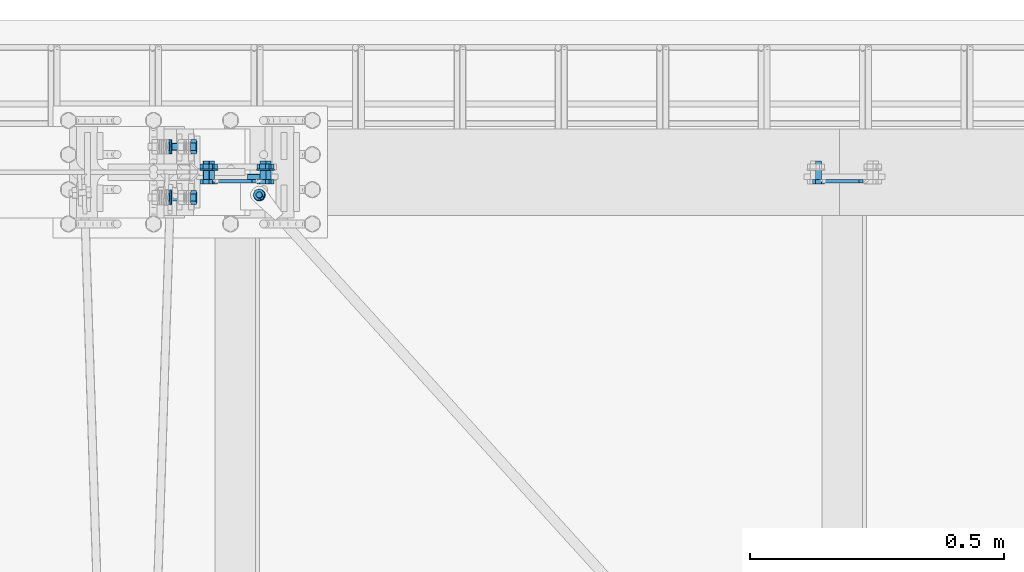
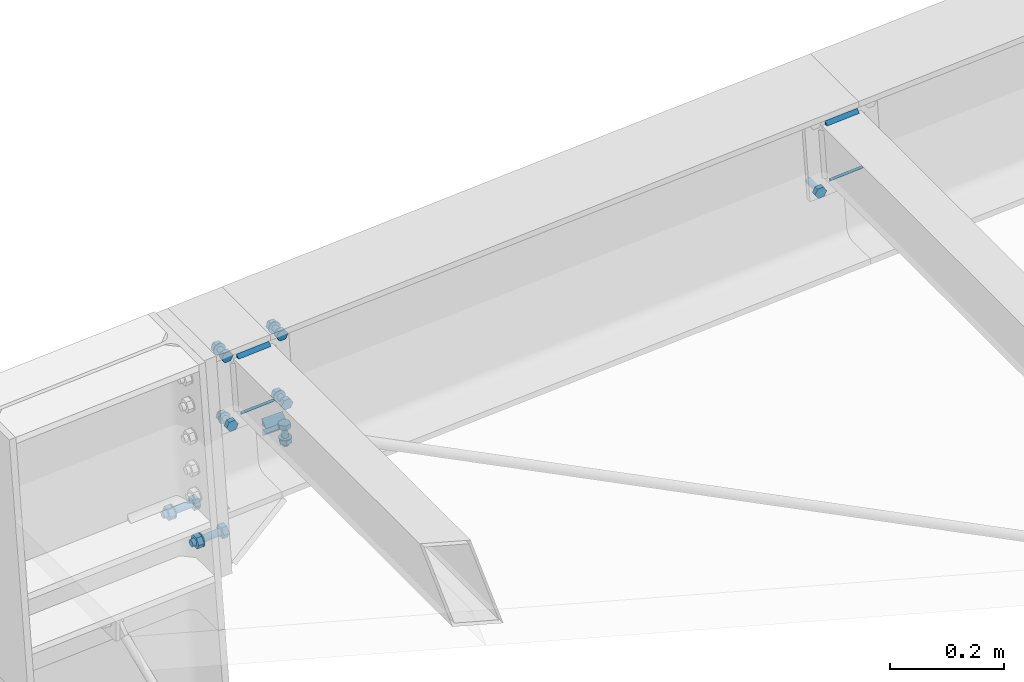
# One storey, part 68 of 72: 30 mechanical fasteners, 10 fasteners.
"""IFC4 building model written with IfcOpenShell, lengths in metres."""

from ifc_helpers import new_model, si_unit, frame, origin_with_axes, place, context, project, spatial, polyline, outline, extrude, type_object, element, save


model = new_model("IFC4")

# Units and contexts
model_context = context("Model", 3, precision=1e-05, world=origin_with_axes())
ifc_project = project(units=[si_unit("LENGTHUNIT", "METRE"), si_unit("AREAUNIT", "SQUARE_METRE"), si_unit("VOLUMEUNIT", "CUBIC_METRE"), si_unit("MASSUNIT", "GRAM", prefix="KILO"), si_unit("TIMEUNIT", "SECOND"), si_unit("PLANEANGLEUNIT", "RADIAN"), si_unit("SOLIDANGLEUNIT", "STERADIAN"), si_unit("THERMODYNAMICTEMPERATUREUNIT", "DEGREE_CELSIUS")], contexts=[model_context])

# Site, building, storey
placement_1 = place(None, origin_with_axes())
site = spatial("IfcSite", under=ifc_project, at=placement_1, Name="Italia", CompositionType="ELEMENT")
building = spatial("IfcBuilding", under=site, at=placement_1, Name="Pensilina", CompositionType="ELEMENT")
storey = spatial("IfcBuildingStorey", under=building, at=placement_1, Name="Storey 0", CompositionType="ELEMENT", Elevation=0.0)

# Mechanical fasteners
mechanical_fastener_type_1 = type_object("IfcMechanicalFastenerType", Name="Collegamento 0105_0205", PredefinedType="BOLT")
placement_2 = place(placement_1, origin_with_axes())
mechanical_fastener_1_placement = place(placement_2, origin_with_axes())
element("IfcMechanicalFastener", 1, at=mechanical_fastener_1_placement, inside=storey, type_object=mechanical_fastener_type_1, Name="Collegamento 0105_0205", NominalDiameter=0.0139999, context=model_context, shape_type="SweptSolid", body=[
    extrude(outline(polyline([(0.0, 0.0, 0.0), (-0.0139999, 0.0, 0.0), (-0.0209999, 0.0121245, 0.0), (-0.0139999, 0.0242486, 0.0), (0.0, 0.0242486, 0.0), (0.00699997, 0.0121245, 0.0), (0.0, 0.0, 0.0)])), frame((0.930596, 21.077, 3.40757), z_axis=(0.997648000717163, 0.0, 0.068545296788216), x_axis=(0.0, 1.0, 0.0)), (0.0, 0.0, 1.0), 0.0112),
])
mechanical_fastener_type_2 = type_object("IfcMechanicalFastenerType", Name="Collegamento 0105_0205", PredefinedType="BOLT")
mechanical_fastener_2_placement = place(placement_2, origin_with_axes())
element("IfcMechanicalFastener", 2, at=mechanical_fastener_2_placement, inside=storey, type_object=mechanical_fastener_type_2, Name="Collegamento 0105_0205", NominalDiameter=0.014, context=model_context, shape_type="SweptSolid", body=[
    extrude(outline(polyline([(0.0, 0.0, 0.0), (-0.000238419, -0.0018115, 0.0), (-0.000938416, -0.00349998, 0.0), (-0.0020504, -0.00494957, 0.0), (-0.00349998, -0.00606203, 0.0), (-0.00518799, -0.00676131, 0.0), (-0.00699997, -0.00699997, 0.0), (-0.00881195, -0.00676131, 0.0), (-0.0105, -0.00606203, 0.0), (-0.0119495, -0.00494957, 0.0), (-0.0130615, -0.00349998, 0.0), (-0.0137615, -0.0018115, 0.0), (-0.0139999, 0.0, 0.0), (-0.0137615, 0.00181174, 0.0), (-0.0130615, 0.00350022, 0.0), (-0.0119495, 0.00494981, 0.0), (-0.0105, 0.00606227, 0.0), (-0.00881195, 0.00676155, 0.0), (-0.00699997, 0.00699997, 0.0), (-0.00518799, 0.00676155, 0.0), (-0.00349998, 0.00606227, 0.0), (-0.0020504, 0.00494981, 0.0), (-0.000938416, 0.00350022, 0.0), (-0.000238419, 0.00181174, 0.0), (0.0, 0.0, 0.0)])), frame((0.870405, 21.077, 3.41559), z_axis=(0.997648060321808, 0.0, 0.068544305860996), x_axis=(0.0, 1.0, 0.0)), (0.0, 0.0, 1.0), 0.0595),
])
mechanical_fastener_type_3 = type_object("IfcMechanicalFastenerType", Name="Collegamento 0105_0205", PredefinedType="BOLT")
mechanical_fastener_3_placement = place(placement_2, origin_with_axes())
element("IfcMechanicalFastener", 3, at=mechanical_fastener_3_placement, inside=storey, type_object=mechanical_fastener_type_3, Name="Collegamento 0105_0205", NominalDiameter=0.0139999, context=model_context, shape_type="SweptSolid", body=[
    extrude(outline(polyline([(0.0, 0.0, 0.0), (-0.0139999, 0.0, 0.0), (-0.0209999, 0.0121243, 0.0), (-0.0139999, 0.0242488, 0.0), (0.0, 0.0242488, 0.0), (0.00699997, 0.0121243, 0.0), (0.0, 0.0, 0.0)])), frame((0.879017, 21.077, 3.40403), z_axis=(0.997648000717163, 0.0, 0.068545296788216), x_axis=(0.0, 1.0, 0.0)), (0.0, 0.0, 1.0), 0.0112),
])
mechanical_fastener_type_4 = type_object("IfcMechanicalFastenerType", Name="Collegamento 0105_0205", PredefinedType="BOLT")
mechanical_fastener_4_placement = place(placement_2, origin_with_axes())
element("IfcMechanicalFastener", 4, at=mechanical_fastener_4_placement, inside=storey, type_object=mechanical_fastener_type_4, Name="Collegamento 0105_0205", NominalDiameter=0.028, context=model_context, shape_type="SweptSolid", body=[
    extrude(outline(polyline([(0.0, 0.0, 0.0), (-0.000476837, -0.00362349, 0.0), (-0.00187492, -0.00699997, 0.0), (-0.0041008, -0.00989962, 0.0), (-0.00699997, -0.0121245, 0.0), (-0.010376, -0.0135231, 0.0), (-0.0139999, -0.0139999, 0.0), (-0.0176239, -0.0135231, 0.0), (-0.0209999, -0.0121245, 0.0), (-0.0238991, -0.00989962, 0.0), (-0.026125, -0.00699997, 0.0), (-0.027523, -0.00362349, 0.0), (-0.0279999, 0.0, 0.0), (-0.027523, 0.00362349, 0.0), (-0.026125, 0.00699997, 0.0), (-0.0238991, 0.00989962, 0.0), (-0.0209999, 0.0121243, 0.0), (-0.0176239, 0.0135229, 0.0), (-0.0139999, 0.0139999, 0.0), (-0.010376, 0.0135229, 0.0), (-0.00699997, 0.0121243, 0.0), (-0.0041008, 0.00989962, 0.0), (-0.00187492, 0.00699997, 0.0), (-0.000476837, 0.00362349, 0.0), (0.0, 0.0, 0.0)])), frame((0.88936, 21.084, 3.41689), z_axis=(0.997648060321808, 0.0, 0.06854435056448), x_axis=(0.0, 1.0, 0.0)), (0.0, 0.0, 1.0), 0.00200003),
])
mechanical_fastener_type_5 = type_object("IfcMechanicalFastenerType", Name="Collegamento 0105_0205", PredefinedType="BOLT")
mechanical_fastener_5_placement = place(placement_2, origin_with_axes())
element("IfcMechanicalFastener", 5, at=mechanical_fastener_5_placement, inside=storey, type_object=mechanical_fastener_type_5, Name="Collegamento 0105_0205", NominalDiameter=0.0139999, context=model_context, shape_type="SweptSolid", body=[
    extrude(outline(polyline([(0.0, 0.0, 0.0), (-0.0139999, 0.0, 0.0), (-0.0209999, 0.0121245, 0.0), (-0.0139999, 0.0242486, 0.0), (0.0, 0.0242486, 0.0), (0.00699997, 0.0121245, 0.0), (0.0, 0.0, 0.0)])), frame((0.930596, 21.177, 3.40757), z_axis=(0.997648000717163, 0.0, 0.068545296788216), x_axis=(0.0, 1.0, 0.0)), (0.0, 0.0, 1.0), 0.0112),
])
mechanical_fastener_type_6 = type_object("IfcMechanicalFastenerType", Name="Collegamento 0105_0205", PredefinedType="BOLT")
mechanical_fastener_6_placement = place(placement_2, origin_with_axes())
element("IfcMechanicalFastener", 6, at=mechanical_fastener_6_placement, inside=storey, type_object=mechanical_fastener_type_6, Name="Collegamento 0105_0205", NominalDiameter=0.014, context=model_context, shape_type="SweptSolid", body=[
    extrude(outline(polyline([(0.0, 0.0, 0.0), (-0.000238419, -0.0018115, 0.0), (-0.000938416, -0.00349998, 0.0), (-0.0020504, -0.00494957, 0.0), (-0.00349998, -0.00606203, 0.0), (-0.00518799, -0.00676131, 0.0), (-0.00699997, -0.00699997, 0.0), (-0.00881195, -0.00676131, 0.0), (-0.0105, -0.00606203, 0.0), (-0.0119495, -0.00494957, 0.0), (-0.0130615, -0.00349998, 0.0), (-0.0137615, -0.0018115, 0.0), (-0.0139999, 0.0, 0.0), (-0.0137615, 0.00181174, 0.0), (-0.0130615, 0.00350022, 0.0), (-0.0119495, 0.00494981, 0.0), (-0.0105, 0.00606227, 0.0), (-0.00881195, 0.00676155, 0.0), (-0.00699997, 0.00699997, 0.0), (-0.00518799, 0.00676155, 0.0), (-0.00349998, 0.00606227, 0.0), (-0.0020504, 0.00494981, 0.0), (-0.000938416, 0.00350022, 0.0), (-0.000238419, 0.00181174, 0.0), (0.0, 0.0, 0.0)])), frame((0.870405, 21.177, 3.41559), z_axis=(0.997648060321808, 0.0, 0.068544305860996), x_axis=(0.0, 1.0, 0.0)), (0.0, 0.0, 1.0), 0.0595),
])
mechanical_fastener_type_7 = type_object("IfcMechanicalFastenerType", Name="Collegamento 0105_0205", PredefinedType="BOLT")
mechanical_fastener_7_placement = place(placement_2, origin_with_axes())
element("IfcMechanicalFastener", 7, at=mechanical_fastener_7_placement, inside=storey, type_object=mechanical_fastener_type_7, Name="Collegamento 0105_0205", NominalDiameter=0.0139999, context=model_context, shape_type="SweptSolid", body=[
    extrude(outline(polyline([(0.0, 0.0, 0.0), (-0.0139999, 0.0, 0.0), (-0.0209999, 0.0121243, 0.0), (-0.0139999, 0.0242488, 0.0), (0.0, 0.0242488, 0.0), (0.00699997, 0.0121243, 0.0), (0.0, 0.0, 0.0)])), frame((0.879017, 21.177, 3.40403), z_axis=(0.997648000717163, 0.0, 0.068545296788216), x_axis=(0.0, 1.0, 0.0)), (0.0, 0.0, 1.0), 0.0112),
])
mechanical_fastener_type_8 = type_object("IfcMechanicalFastenerType", Name="Collegamento 0105_0205", PredefinedType="BOLT")
mechanical_fastener_8_placement = place(placement_2, origin_with_axes())
element("IfcMechanicalFastener", 8, at=mechanical_fastener_8_placement, inside=storey, type_object=mechanical_fastener_type_8, Name="Collegamento 0105_0205", NominalDiameter=0.028, context=model_context, shape_type="SweptSolid", body=[
    extrude(outline(polyline([(0.0, 0.0, 0.0), (-0.000476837, -0.00362349, 0.0), (-0.00187492, -0.00699997, 0.0), (-0.0041008, -0.00989962, 0.0), (-0.00699997, -0.0121245, 0.0), (-0.010376, -0.0135231, 0.0), (-0.0139999, -0.0139999, 0.0), (-0.0176239, -0.0135231, 0.0), (-0.0209999, -0.0121245, 0.0), (-0.0238991, -0.00989962, 0.0), (-0.026125, -0.00699997, 0.0), (-0.027523, -0.00362349, 0.0), (-0.0279999, 0.0, 0.0), (-0.027523, 0.00362349, 0.0), (-0.026125, 0.00699997, 0.0), (-0.0238991, 0.00989962, 0.0), (-0.0209999, 0.0121243, 0.0), (-0.0176239, 0.0135229, 0.0), (-0.0139999, 0.0139999, 0.0), (-0.010376, 0.0135229, 0.0), (-0.00699997, 0.0121243, 0.0), (-0.0041008, 0.00989962, 0.0), (-0.00187492, 0.00699997, 0.0), (-0.000476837, 0.00362349, 0.0), (0.0, 0.0, 0.0)])), frame((0.88936, 21.184, 3.41689), z_axis=(0.997648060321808, 0.0, 0.06854435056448), x_axis=(0.0, 1.0, 0.0)), (0.0, 0.0, 1.0), 0.00200003),
])

# Fasteners
fastener_type_1 = type_object("IfcFastenerType", Name="Collegamento 0205_0204", PredefinedType="WELD")
fastener_1_placement = place(placement_2, origin_with_axes())
element("IfcFastener", 9, at=fastener_1_placement, inside=storey, type_object=fastener_type_1, Name="Collegamento 0205_0204", context=model_context, shape_type="SweptSolid", body=[
    extrude(outline(polyline([(0.0, 0.0, 0.0), (0.00717354, -0.00695801, 0.0), (0.0, -0.00695801, 0.0), (0.0, 0.0, 0.0)])), frame((1.04952, 21.106, 3.76556), z_axis=(-0.997731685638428, 0.0, -0.067316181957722), x_axis=(0.0, -1.0, 0.0)), (0.0, 0.0, 1.0), 0.0661001),
])
fastener_type_2 = type_object("IfcFastenerType", Name="Collegamento 0205_0204", PredefinedType="WELD")
fastener_2_placement = place(placement_2, origin_with_axes())
element("IfcFastener", 10, at=fastener_2_placement, inside=storey, type_object=fastener_type_2, Name="Collegamento 0205_0204", context=model_context, shape_type="SweptSolid", body=[
    extrude(outline(polyline([(0.0, 0.0, 0.0), (-0.00717354, 0.00695801, 0.0), (0.0, 0.00695801, 0.0), (0.0, 0.0, 0.0)])), frame((0.992578, 21.106, 3.6276), z_axis=(0.997731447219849, 0.0, 0.067319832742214), x_axis=(0.0, 1.0, 0.0)), (0.0, 0.0, 1.0), 0.0661),
])
fastener_type_3 = type_object("IfcFastenerType", Name="Collegamento 0205_0204", PredefinedType="WELD")
fastener_3_placement = place(placement_2, origin_with_axes())
element("IfcFastener", 11, at=fastener_3_placement, inside=storey, type_object=fastener_type_3, Name="Collegamento 0205_0204", context=model_context, shape_type="SweptSolid", body=[
    extrude(outline(polyline([(0.0, 0.0, 0.0), (0.00717354, -0.00695801, 0.0), (0.0, -0.00695801, 0.0), (0.0, 0.0, 0.0)])), frame((1.04952, 21.106, 3.76556), z_axis=(-0.997731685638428, 0.0, -0.067316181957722), x_axis=(0.0, -1.0, 0.0)), (0.0, 0.0, 1.0), 0.0661001),
])
fastener_type_4 = type_object("IfcFastenerType", Name="Collegamento 0205_0204", PredefinedType="WELD")
fastener_4_placement = place(placement_2, origin_with_axes())
element("IfcFastener", 12, at=fastener_4_placement, inside=storey, type_object=fastener_type_4, Name="Collegamento 0205_0204", context=model_context, shape_type="SweptSolid", body=[
    extrude(outline(polyline([(0.0, 0.0, 0.0), (-0.00717354, 0.00695801, 0.0), (0.0, 0.00695801, 0.0), (0.0, 0.0, 0.0)])), frame((0.992578, 21.106, 3.6276), z_axis=(0.997731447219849, 0.0, 0.067319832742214), x_axis=(0.0, 1.0, 0.0)), (0.0, 0.0, 1.0), 0.0661),
])

# Mechanical fasteners
mechanical_fastener_type_9 = type_object("IfcMechanicalFastenerType", Name="Collegamento 0205_0204", PredefinedType="BOLT")
mechanical_fastener_9_placement = place(placement_2, origin_with_axes())
element("IfcMechanicalFastener", 13, at=mechanical_fastener_9_placement, inside=storey, type_object=mechanical_fastener_type_9, Name="Collegamento 0205_0204", NominalDiameter=0.0119999, context=model_context, shape_type="SweptSolid", body=[
    extrude(outline(polyline([(0.0, 0.0, 0.0), (-0.0119728, -0.000807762, 0.0), (-0.0186588, 0.00915694, 0.0), (-0.0133719, 0.0199296, 0.0), (-0.00139916, 0.0207374, 0.0), (0.00528681, 0.0107727, 0.0), (0.0, 0.0, 0.0)])), frame((0.976979, 21.106, 3.60702), z_axis=(0.0, -1.0, 0.0), x_axis=(1.0, 0.0, 0.0)), (0.0, 0.0, 1.0), 0.00959969),
])
mechanical_fastener_type_10 = type_object("IfcMechanicalFastenerType", Name="Collegamento 0205_0204", PredefinedType="BOLT")
mechanical_fastener_10_placement = place(placement_2, origin_with_axes())
element("IfcMechanicalFastener", 14, at=mechanical_fastener_10_placement, inside=storey, type_object=mechanical_fastener_type_10, Name="Collegamento 0205_0204", NominalDiameter=0.012, context=model_context, shape_type="SweptSolid", body=[
    extrude(outline(polyline([(0.0, 0.0, 0.0), (-0.000204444, -0.00155282, 0.0), (-0.000803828, -0.00300002, 0.0), (-0.00175732, -0.00424266, 0.0), (-0.00299996, -0.00519609, 0.0), (-0.00444704, -0.00579548, 0.0), (-0.00599998, -0.00600004, 0.0), (-0.00755292, -0.00579548, 0.0), (-0.009, -0.00519609, 0.0), (-0.0102426, -0.00424266, 0.0), (-0.0111961, -0.00300002, 0.0), (-0.0117955, -0.00155282, 0.0), (-0.012, 0.0, 0.0), (-0.0117955, 0.00155282, 0.0), (-0.0111961, 0.00300002, 0.0), (-0.0102426, 0.00424266, 0.0), (-0.009, 0.00519609, 0.0), (-0.00755292, 0.00579548, 0.0), (-0.00599998, 0.00600004, 0.0), (-0.00444704, 0.00579548, 0.0), (-0.00299996, 0.00519609, 0.0), (-0.00175732, 0.00424266, 0.0), (-0.000803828, 0.00300002, 0.0), (-0.000204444, 0.00155282, 0.0), (0.0, 0.0, 0.0)])), frame((0.976293, 21.142, 3.61698), z_axis=(0.0, -1.0, 0.0), x_axis=(1.0, 0.0, 0.0)), (0.0, 0.0, 1.0), 0.0359993),
])
mechanical_fastener_type_11 = type_object("IfcMechanicalFastenerType", Name="Collegamento 0205_0204", PredefinedType="BOLT")
mechanical_fastener_11_placement = place(placement_2, origin_with_axes())
element("IfcMechanicalFastener", 15, at=mechanical_fastener_11_placement, inside=storey, type_object=mechanical_fastener_type_11, Name="Collegamento 0205_0204", NominalDiameter=0.0119999, context=model_context, shape_type="SweptSolid", body=[
    extrude(outline(polyline([(0.0, 0.0, 0.0), (-0.0119728, -0.000807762, 0.0), (-0.0186588, 0.00915694, 0.0), (-0.0133719, 0.0199296, 0.0), (-0.00139916, 0.0207374, 0.0), (0.00528681, 0.0107727, 0.0), (0.0, 0.0, 0.0)])), frame((0.976979, 21.1356, 3.60702), z_axis=(0.0, -1.0, 0.0), x_axis=(1.0, 0.0, 0.0)), (0.0, 0.0, 1.0), 0.00959969),
])
mechanical_fastener_type_12 = type_object("IfcMechanicalFastenerType", Name="Collegamento 0205_0204", PredefinedType="BOLT")
mechanical_fastener_12_placement = place(placement_2, origin_with_axes())
element("IfcMechanicalFastener", 16, at=mechanical_fastener_12_placement, inside=storey, type_object=mechanical_fastener_type_12, Name="Collegamento 0205_0204", NominalDiameter=0.024, context=model_context, shape_type="SweptSolid", body=[
    extrude(outline(polyline([(0.0, 0.0, 0.0), (-0.000408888, -0.00310588, 0.0), (-0.00160772, -0.00600004, 0.0), (-0.00351477, -0.00848532, 0.0), (-0.00600004, -0.0103922, 0.0), (-0.00889421, -0.0115912, 0.0), (-0.012, -0.0120001, 0.0), (-0.0151058, -0.0115912, 0.0), (-0.018, -0.0103922, 0.0), (-0.0204853, -0.00848532, 0.0), (-0.0223923, -0.00600004, 0.0), (-0.0235912, -0.00310588, 0.0), (-0.024, 0.0, 0.0), (-0.0235912, 0.00310588, 0.0), (-0.0223923, 0.00600004, 0.0), (-0.0204853, 0.00848532, 0.0), (-0.018, 0.0103922, 0.0), (-0.0151058, 0.0115912, 0.0), (-0.012, 0.0120001, 0.0), (-0.00889421, 0.0115912, 0.0), (-0.00600004, 0.0103922, 0.0), (-0.00351477, 0.00848532, 0.0), (-0.00160772, 0.00600004, 0.0), (-0.000408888, 0.00310588, 0.0), (0.0, 0.0, 0.0)])), frame((0.982293, 21.126, 3.61698), z_axis=(0.0, -1.0, 0.0), x_axis=(1.0, 0.0, 0.0)), (0.0, 0.0, 1.0), 0.00200081),
])
mechanical_fastener_type_13 = type_object("IfcMechanicalFastenerType", Name="Collegamento 0205_0204", PredefinedType="BOLT")
mechanical_fastener_13_placement = place(placement_2, origin_with_axes())
element("IfcMechanicalFastener", 17, at=mechanical_fastener_13_placement, inside=storey, type_object=mechanical_fastener_type_13, Name="Collegamento 0205_0204", NominalDiameter=0.0119999, context=model_context, shape_type="SweptSolid", body=[
    extrude(outline(polyline([(0.0, 0.0, 0.0), (-0.0119728, -0.000807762, 0.0), (-0.0186589, 0.00915694, 0.0), (-0.0133721, 0.0199296, 0.0), (-0.00139928, 0.0207374, 0.0), (0.00528669, 0.0107727, 0.0), (0.0, 0.0, 0.0)])), frame((1.08872, 21.106, 3.61456), z_axis=(0.0, -1.0, 0.0), x_axis=(1.0, 0.0, 0.0)), (0.0, 0.0, 1.0), 0.00959969),
])
mechanical_fastener_type_14 = type_object("IfcMechanicalFastenerType", Name="Collegamento 0205_0204", PredefinedType="BOLT")
mechanical_fastener_14_placement = place(placement_2, origin_with_axes())
element("IfcMechanicalFastener", 18, at=mechanical_fastener_14_placement, inside=storey, type_object=mechanical_fastener_type_14, Name="Collegamento 0205_0204", NominalDiameter=0.012, context=model_context, shape_type="SweptSolid", body=[
    extrude(outline(polyline([(0.0, 0.0, 0.0), (-0.000204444, -0.00155282, 0.0), (-0.000803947, -0.00300002, 0.0), (-0.00175738, -0.00424266, 0.0), (-0.00300002, -0.00519609, 0.0), (-0.0044471, -0.00579548, 0.0), (-0.00600004, -0.00600004, 0.0), (-0.00755298, -0.00579548, 0.0), (-0.00900006, -0.00519609, 0.0), (-0.0102427, -0.00424266, 0.0), (-0.0111961, -0.00300002, 0.0), (-0.0117956, -0.00155282, 0.0), (-0.0120001, 0.0, 0.0), (-0.0117956, 0.00155282, 0.0), (-0.0111961, 0.00300002, 0.0), (-0.0102427, 0.00424266, 0.0), (-0.00900006, 0.00519609, 0.0), (-0.00755298, 0.00579548, 0.0), (-0.00600004, 0.00600004, 0.0), (-0.0044471, 0.00579548, 0.0), (-0.00300002, 0.00519609, 0.0), (-0.00175738, 0.00424266, 0.0), (-0.000803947, 0.00300002, 0.0), (-0.000204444, 0.00155282, 0.0), (0.0, 0.0, 0.0)])), frame((1.08804, 21.142, 3.62452), z_axis=(0.0, -1.0, 0.0), x_axis=(1.0, 0.0, 0.0)), (0.0, 0.0, 1.0), 0.0359993),
])
mechanical_fastener_type_15 = type_object("IfcMechanicalFastenerType", Name="Collegamento 0205_0204", PredefinedType="BOLT")
mechanical_fastener_15_placement = place(placement_2, origin_with_axes())
element("IfcMechanicalFastener", 19, at=mechanical_fastener_15_placement, inside=storey, type_object=mechanical_fastener_type_15, Name="Collegamento 0205_0204", NominalDiameter=0.0119999, context=model_context, shape_type="SweptSolid", body=[
    extrude(outline(polyline([(0.0, 0.0, 0.0), (-0.0119728, -0.000807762, 0.0), (-0.0186589, 0.00915694, 0.0), (-0.0133721, 0.0199296, 0.0), (-0.00139928, 0.0207374, 0.0), (0.00528669, 0.0107727, 0.0), (0.0, 0.0, 0.0)])), frame((1.08872, 21.1356, 3.61456), z_axis=(0.0, -1.0, 0.0), x_axis=(1.0, 0.0, 0.0)), (0.0, 0.0, 1.0), 0.00959969),
])
mechanical_fastener_type_16 = type_object("IfcMechanicalFastenerType", Name="Collegamento 0205_0204", PredefinedType="BOLT")
mechanical_fastener_16_placement = place(placement_2, origin_with_axes())
element("IfcMechanicalFastener", 20, at=mechanical_fastener_16_placement, inside=storey, type_object=mechanical_fastener_type_16, Name="Collegamento 0205_0204", NominalDiameter=0.024, context=model_context, shape_type="SweptSolid", body=[
    extrude(outline(polyline([(0.0, 0.0, 0.0), (-0.000408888, -0.00310588, 0.0), (-0.00160766, -0.00600004, 0.0), (-0.00351465, -0.00848532, 0.0), (-0.00599992, -0.0103922, 0.0), (-0.00889409, -0.0115912, 0.0), (-0.012, -0.0120001, 0.0), (-0.0151058, -0.0115912, 0.0), (-0.018, -0.0103922, 0.0), (-0.0204853, -0.00848532, 0.0), (-0.0223923, -0.00600004, 0.0), (-0.023591, -0.00310588, 0.0), (-0.0239999, 0.0, 0.0), (-0.023591, 0.00310588, 0.0), (-0.0223923, 0.00600004, 0.0), (-0.0204853, 0.00848532, 0.0), (-0.018, 0.0103922, 0.0), (-0.0151058, 0.0115912, 0.0), (-0.012, 0.0120001, 0.0), (-0.00889409, 0.0115912, 0.0), (-0.00599992, 0.0103922, 0.0), (-0.00351465, 0.00848532, 0.0), (-0.00160766, 0.00600004, 0.0), (-0.000408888, 0.00310588, 0.0), (0.0, 0.0, 0.0)])), frame((1.09404, 21.126, 3.62452), z_axis=(0.0, -1.0, 0.0), x_axis=(1.0, 0.0, 0.0)), (0.0, 0.0, 1.0), 0.00200081),
])
mechanical_fastener_type_17 = type_object("IfcMechanicalFastenerType", Name="Collegamento 0205_0204", PredefinedType="BOLT")
mechanical_fastener_17_placement = place(placement_2, origin_with_axes())
element("IfcMechanicalFastener", 21, at=mechanical_fastener_17_placement, inside=storey, type_object=mechanical_fastener_type_17, Name="Collegamento 0205_0204", NominalDiameter=0.0119999, context=model_context, shape_type="SweptSolid", body=[
    extrude(outline(polyline([(0.0, 0.0, 0.0), (-0.0119728, -0.000807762, 0.0), (-0.0186588, 0.00915694, 0.0), (-0.0133719, 0.0199296, 0.0), (-0.00139916, 0.0207374, 0.0), (0.00528681, 0.0107727, 0.0), (0.0, 0.0, 0.0)])), frame((0.966746, 21.106, 3.75867), z_axis=(0.0, -1.0, 0.0), x_axis=(1.0, 0.0, 0.0)), (0.0, 0.0, 1.0), 0.00959969),
])
mechanical_fastener_type_18 = type_object("IfcMechanicalFastenerType", Name="Collegamento 0205_0204", PredefinedType="BOLT")
mechanical_fastener_18_placement = place(placement_2, origin_with_axes())
element("IfcMechanicalFastener", 22, at=mechanical_fastener_18_placement, inside=storey, type_object=mechanical_fastener_type_18, Name="Collegamento 0205_0204", NominalDiameter=0.012, context=model_context, shape_type="SweptSolid", body=[
    extrude(outline(polyline([(0.0, 0.0, 0.0), (-0.000204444, -0.00155282, 0.0), (-0.000803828, -0.00300002, 0.0), (-0.00175732, -0.00424266, 0.0), (-0.00299996, -0.00519609, 0.0), (-0.00444704, -0.00579548, 0.0), (-0.00599998, -0.00600004, 0.0), (-0.00755292, -0.00579548, 0.0), (-0.009, -0.00519609, 0.0), (-0.0102426, -0.00424266, 0.0), (-0.0111961, -0.00300002, 0.0), (-0.0117955, -0.00155282, 0.0), (-0.012, 0.0, 0.0), (-0.0117955, 0.00155282, 0.0), (-0.0111961, 0.00300002, 0.0), (-0.0102426, 0.00424266, 0.0), (-0.009, 0.00519609, 0.0), (-0.00755292, 0.00579548, 0.0), (-0.00599998, 0.00600004, 0.0), (-0.00444704, 0.00579548, 0.0), (-0.00299996, 0.00519609, 0.0), (-0.00175732, 0.00424266, 0.0), (-0.000803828, 0.00300002, 0.0), (-0.000204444, 0.00155282, 0.0), (0.0, 0.0, 0.0)])), frame((0.96606, 21.142, 3.76864), z_axis=(0.0, -1.0, 0.0), x_axis=(1.0, 0.0, 0.0)), (0.0, 0.0, 1.0), 0.0359993),
])
mechanical_fastener_type_19 = type_object("IfcMechanicalFastenerType", Name="Collegamento 0205_0204", PredefinedType="BOLT")
mechanical_fastener_19_placement = place(placement_2, origin_with_axes())
element("IfcMechanicalFastener", 23, at=mechanical_fastener_19_placement, inside=storey, type_object=mechanical_fastener_type_19, Name="Collegamento 0205_0204", NominalDiameter=0.0119999, context=model_context, shape_type="SweptSolid", body=[
    extrude(outline(polyline([(0.0, 0.0, 0.0), (-0.0119728, -0.000807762, 0.0), (-0.0186588, 0.00915694, 0.0), (-0.0133719, 0.0199296, 0.0), (-0.00139916, 0.0207374, 0.0), (0.00528681, 0.0107727, 0.0), (0.0, 0.0, 0.0)])), frame((0.966746, 21.1356, 3.75867), z_axis=(0.0, -1.0, 0.0), x_axis=(1.0, 0.0, 0.0)), (0.0, 0.0, 1.0), 0.00959969),
])
mechanical_fastener_type_20 = type_object("IfcMechanicalFastenerType", Name="Collegamento 0205_0204", PredefinedType="BOLT")
mechanical_fastener_20_placement = place(placement_2, origin_with_axes())
element("IfcMechanicalFastener", 24, at=mechanical_fastener_20_placement, inside=storey, type_object=mechanical_fastener_type_20, Name="Collegamento 0205_0204", NominalDiameter=0.024, context=model_context, shape_type="SweptSolid", body=[
    extrude(outline(polyline([(0.0, 0.0, 0.0), (-0.000408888, -0.00310588, 0.0), (-0.00160772, -0.00600004, 0.0), (-0.00351477, -0.00848532, 0.0), (-0.00600004, -0.0103922, 0.0), (-0.00889421, -0.0115912, 0.0), (-0.012, -0.0120001, 0.0), (-0.0151058, -0.0115912, 0.0), (-0.018, -0.0103922, 0.0), (-0.0204853, -0.00848532, 0.0), (-0.0223923, -0.00600004, 0.0), (-0.0235912, -0.00310588, 0.0), (-0.024, 0.0, 0.0), (-0.0235912, 0.00310588, 0.0), (-0.0223923, 0.00600004, 0.0), (-0.0204853, 0.00848532, 0.0), (-0.018, 0.0103922, 0.0), (-0.0151058, 0.0115912, 0.0), (-0.012, 0.0120001, 0.0), (-0.00889421, 0.0115912, 0.0), (-0.00600004, 0.0103922, 0.0), (-0.00351477, 0.00848532, 0.0), (-0.00160772, 0.00600004, 0.0), (-0.000408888, 0.00310588, 0.0), (0.0, 0.0, 0.0)])), frame((0.97206, 21.126, 3.76864), z_axis=(0.0, -1.0, 0.0), x_axis=(1.0, 0.0, 0.0)), (0.0, 0.0, 1.0), 0.00200081),
])
mechanical_fastener_type_21 = type_object("IfcMechanicalFastenerType", Name="Collegamento 0205_0204", PredefinedType="BOLT")
mechanical_fastener_21_placement = place(placement_2, origin_with_axes())
element("IfcMechanicalFastener", 25, at=mechanical_fastener_21_placement, inside=storey, type_object=mechanical_fastener_type_21, Name="Collegamento 0205_0204", NominalDiameter=0.0119999, context=model_context, shape_type="SweptSolid", body=[
    extrude(outline(polyline([(0.0, 0.0, 0.0), (-0.0119728, -0.000807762, 0.0), (-0.0186589, 0.00915694, 0.0), (-0.0133721, 0.0199296, 0.0), (-0.00139928, 0.0207374, 0.0), (0.00528669, 0.0107727, 0.0), (0.0, 0.0, 0.0)])), frame((1.07849, 21.106, 3.76621), z_axis=(0.0, -1.0, 0.0), x_axis=(1.0, 0.0, 0.0)), (0.0, 0.0, 1.0), 0.00959969),
])
mechanical_fastener_type_22 = type_object("IfcMechanicalFastenerType", Name="Collegamento 0205_0204", PredefinedType="BOLT")
mechanical_fastener_22_placement = place(placement_2, origin_with_axes())
element("IfcMechanicalFastener", 26, at=mechanical_fastener_22_placement, inside=storey, type_object=mechanical_fastener_type_22, Name="Collegamento 0205_0204", NominalDiameter=0.012, context=model_context, shape_type="SweptSolid", body=[
    extrude(outline(polyline([(0.0, 0.0, 0.0), (-0.000204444, -0.00155282, 0.0), (-0.000803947, -0.00300002, 0.0), (-0.00175738, -0.00424266, 0.0), (-0.00300002, -0.00519609, 0.0), (-0.0044471, -0.00579548, 0.0), (-0.00600004, -0.00600004, 0.0), (-0.00755298, -0.00579548, 0.0), (-0.00900006, -0.00519609, 0.0), (-0.0102427, -0.00424266, 0.0), (-0.0111961, -0.00300002, 0.0), (-0.0117956, -0.00155282, 0.0), (-0.0120001, 0.0, 0.0), (-0.0117956, 0.00155282, 0.0), (-0.0111961, 0.00300002, 0.0), (-0.0102427, 0.00424266, 0.0), (-0.00900006, 0.00519609, 0.0), (-0.00755298, 0.00579548, 0.0), (-0.00600004, 0.00600004, 0.0), (-0.0044471, 0.00579548, 0.0), (-0.00300002, 0.00519609, 0.0), (-0.00175738, 0.00424266, 0.0), (-0.000803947, 0.00300002, 0.0), (-0.000204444, 0.00155282, 0.0), (0.0, 0.0, 0.0)])), frame((1.07781, 21.142, 3.77618), z_axis=(0.0, -1.0, 0.0), x_axis=(1.0, 0.0, 0.0)), (0.0, 0.0, 1.0), 0.0359993),
])
mechanical_fastener_type_23 = type_object("IfcMechanicalFastenerType", Name="Collegamento 0205_0204", PredefinedType="BOLT")
mechanical_fastener_23_placement = place(placement_2, origin_with_axes())
element("IfcMechanicalFastener", 27, at=mechanical_fastener_23_placement, inside=storey, type_object=mechanical_fastener_type_23, Name="Collegamento 0205_0204", NominalDiameter=0.0119999, context=model_context, shape_type="SweptSolid", body=[
    extrude(outline(polyline([(0.0, 0.0, 0.0), (-0.0119728, -0.000807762, 0.0), (-0.0186589, 0.00915694, 0.0), (-0.0133721, 0.0199296, 0.0), (-0.00139928, 0.0207374, 0.0), (0.00528669, 0.0107727, 0.0), (0.0, 0.0, 0.0)])), frame((1.07849, 21.1356, 3.76621), z_axis=(0.0, -1.0, 0.0), x_axis=(1.0, 0.0, 0.0)), (0.0, 0.0, 1.0), 0.00959969),
])
mechanical_fastener_type_24 = type_object("IfcMechanicalFastenerType", Name="Collegamento 0205_0204", PredefinedType="BOLT")
mechanical_fastener_24_placement = place(placement_2, origin_with_axes())
element("IfcMechanicalFastener", 28, at=mechanical_fastener_24_placement, inside=storey, type_object=mechanical_fastener_type_24, Name="Collegamento 0205_0204", NominalDiameter=0.024, context=model_context, shape_type="SweptSolid", body=[
    extrude(outline(polyline([(0.0, 0.0, 0.0), (-0.000408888, -0.00310588, 0.0), (-0.00160766, -0.00600004, 0.0), (-0.00351465, -0.00848532, 0.0), (-0.00599992, -0.0103922, 0.0), (-0.00889409, -0.0115912, 0.0), (-0.012, -0.0120001, 0.0), (-0.0151058, -0.0115912, 0.0), (-0.018, -0.0103922, 0.0), (-0.0204853, -0.00848532, 0.0), (-0.0223923, -0.00600004, 0.0), (-0.023591, -0.00310588, 0.0), (-0.0239999, 0.0, 0.0), (-0.023591, 0.00310588, 0.0), (-0.0223923, 0.00600004, 0.0), (-0.0204853, 0.00848532, 0.0), (-0.018, 0.0103922, 0.0), (-0.0151058, 0.0115912, 0.0), (-0.012, 0.0120001, 0.0), (-0.00889409, 0.0115912, 0.0), (-0.00599992, 0.0103922, 0.0), (-0.00351465, 0.00848532, 0.0), (-0.00160766, 0.00600004, 0.0), (-0.000408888, 0.00310588, 0.0), (0.0, 0.0, 0.0)])), frame((1.08381, 21.126, 3.77618), z_axis=(0.0, -1.0, 0.0), x_axis=(1.0, 0.0, 0.0)), (0.0, 0.0, 1.0), 0.00200081),
])
mechanical_fastener_type_25 = type_object("IfcMechanicalFastenerType", Name="Collegamento 0205_0604", PredefinedType="BOLT")
mechanical_fastener_25_placement = place(placement_2, origin_with_axes())
element("IfcMechanicalFastener", 29, at=mechanical_fastener_25_placement, inside=storey, type_object=mechanical_fastener_type_25, Name="Collegamento 0205_0604", NominalDiameter=0.0119996, context=model_context, shape_type="SweptSolid", body=[
    extrude(outline(polyline([(0.0, 0.0, 0.0), (2.86102e-06, -0.0120001, 0.0), (0.010396, -0.0179977, 0.0), (0.0207872, -0.0119953, 0.0), (0.0207844, 3.8147e-06, 0.0), (0.0103912, 0.00600147, 0.0), (0.0, 0.0, 0.0)])), frame((1.07585, 21.078, 3.59465), z_axis=(-0.030981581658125, 0.034172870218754, 0.998935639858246), x_axis=(-0.740852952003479, -0.671667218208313, 0.0)), (0.0, 0.0, 1.0), 0.00960013),
])
mechanical_fastener_type_26 = type_object("IfcMechanicalFastenerType", Name="Collegamento 0205_0604", PredefinedType="BOLT")
mechanical_fastener_26_placement = place(placement_2, origin_with_axes())
element("IfcMechanicalFastener", 30, at=mechanical_fastener_26_placement, inside=storey, type_object=mechanical_fastener_type_26, Name="Collegamento 0205_0604", NominalDiameter=0.012, context=model_context, shape_type="SweptSolid", body=[
    extrude(outline(polyline([(0.0, 0.0, 0.0), (-0.000204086, -0.00155258, 0.0), (-0.000803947, -0.00300026, 0.0), (-0.00175762, -0.0042429, 0.0), (-0.00299931, -0.00519562, 0.0), (-0.00444794, -0.00579643, 0.0), (-0.00599957, -0.00600052, 0.0), (-0.0075531, -0.00579548, 0.0), (-0.00899982, -0.00519562, 0.0), (-0.0102425, -0.00424194, 0.0), (-0.0111952, -0.00299931, 0.0), (-0.011795, -0.00155258, 0.0), (-0.0120001, 0.0, 0.0), (-0.011796, 0.00155258, 0.0), (-0.0111952, 0.00300026, 0.0), (-0.0102415, 0.0042429, 0.0), (-0.00899982, 0.00519562, 0.0), (-0.00755215, 0.00579643, 0.0), (-0.00599957, 0.00599957, 0.0), (-0.00444698, 0.00579548, 0.0), (-0.00300026, 0.00519562, 0.0), (-0.00175762, 0.00424194, 0.0), (-0.000803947, 0.00299931, 0.0), (-0.00020504, 0.00155258, 0.0), (0.0, 0.0, 0.0)])), frame((1.06086, 21.0701, 3.55642), z_axis=(-0.030975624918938, 0.034131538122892, 0.99893718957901), x_axis=(-0.740512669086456, -0.672042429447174, 0.0)), (0.0, 0.0, 1.0), 0.038),
])
mechanical_fastener_type_27 = type_object("IfcMechanicalFastenerType", Name="Collegamento 0205_0604", PredefinedType="BOLT")
mechanical_fastener_27_placement = place(placement_2, origin_with_axes())
element("IfcMechanicalFastener", 31, at=mechanical_fastener_27_placement, inside=storey, type_object=mechanical_fastener_type_27, Name="Collegamento 0205_0604", NominalDiameter=0.0119996, context=model_context, shape_type="SweptSolid", body=[
    extrude(outline(polyline([(0.0, 0.0, 0.0), (4.76837e-06, -0.0119991, 0.0), (0.0103998, -0.0179949, 0.0), (0.0207901, -0.0119915, 0.0), (0.0207844, 8.58307e-06, 0.0), (0.0103893, 0.00600433, 0.0), (0.0, 0.0, 0.0)])), frame((1.07683, 21.0769, 3.56309), z_axis=(-0.030969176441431, 0.034172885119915, 0.998935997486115), x_axis=(-0.740986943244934, -0.67151939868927, 0.0)), (0.0, 0.0, 1.0), 0.00960013),
])
mechanical_fastener_type_28 = type_object("IfcMechanicalFastenerType", Name="Collegamento 0205_0604", PredefinedType="BOLT")
mechanical_fastener_28_placement = place(placement_2, origin_with_axes())
element("IfcMechanicalFastener", 32, at=mechanical_fastener_28_placement, inside=storey, type_object=mechanical_fastener_type_28, Name="Collegamento 0205_0604", NominalDiameter=0.024, context=model_context, shape_type="SweptSolid", body=[
    extrude(outline(polyline([(0.0, 0.0, 0.0), (-0.000408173, -0.00310612, 0.0), (-0.00160694, -0.00599957, 0.0), (-0.00351524, -0.00848579, 0.0), (-0.00599957, -0.0103922, 0.0), (-0.00889397, -0.011591, 0.0), (-0.0120001, -0.0120001, 0.0), (-0.0151052, -0.011591, 0.0), (-0.0179996, -0.0103922, 0.0), (-0.0204859, -0.00848579, 0.0), (-0.0223923, -0.00600052, 0.0), (-0.023591, -0.00310612, 0.0), (-0.0240002, 0.0, 0.0), (-0.023591, 0.00310612, 0.0), (-0.0223923, 0.00599957, 0.0), (-0.020484, 0.00848579, 0.0), (-0.0179996, 0.0103922, 0.0), (-0.0151052, 0.011591, 0.0), (-0.0120001, 0.0120001, 0.0), (-0.00889397, 0.011591, 0.0), (-0.00599957, 0.0103922, 0.0), (-0.00351429, 0.00848579, 0.0), (-0.00160694, 0.00600052, 0.0), (-0.000408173, 0.00310612, 0.0), (0.0, 0.0, 0.0)])), frame((1.0559, 21.0667, 3.5724), z_axis=(-0.030993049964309, 0.034330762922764, 0.998929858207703), x_axis=(-0.742268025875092, -0.670103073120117, 0.0)), (0.0, 0.0, 1.0), 0.00200009),
])

# Fasteners
fastener_type_5 = type_object("IfcFastenerType", Name="Collegamento 0205_0604", PredefinedType="WELD")
fastener_5_placement = place(placement_2, origin_with_axes())
element("IfcFastener", 33, at=fastener_5_placement, inside=storey, type_object=fastener_type_5, Name="Collegamento 0205_0604", context=model_context, shape_type="SweptSolid", body=[
    extrude(outline(polyline([(0.0, 0.0, 0.0), (-0.0136948, 0.0142241, 0.0), (0.000471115, 0.0137401, 0.0), (0.0, 0.0, 0.0)])), frame((1.0422, 21.1151, 3.55861), z_axis=(0.99951958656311, 0.0, 0.030994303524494), x_axis=(0.0, 1.0, 0.0)), (0.0, 0.0, 1.0), 0.0421002),
])
fastener_type_6 = type_object("IfcFastenerType", Name="Collegamento 0205_0604", PredefinedType="WELD")
fastener_6_placement = place(placement_2, origin_with_axes())
element("IfcFastener", 34, at=fastener_6_placement, inside=storey, type_object=fastener_type_6, Name="Collegamento 0205_0604", context=model_context, shape_type="SweptSolid", body=[
    extrude(outline(polyline([(0.0, 0.0, 0.0), (0.0146351, -0.0132558, 0.0), (0.000469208, -0.0137398, 0.0), (0.0, 0.0, 0.0)])), frame((1.08312, 21.1163, 3.59727), z_axis=(-0.999520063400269, 0.0, -0.030977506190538), x_axis=(0.0, -1.0, 0.0)), (0.0, 0.0, 1.0), 0.0420999),
])
fastener_type_7 = type_object("IfcFastenerType", Name="Collegamento 0305_0304", PredefinedType="WELD")
fastener_7_placement = place(placement_2, origin_with_axes())
element("IfcFastener", 35, at=fastener_7_placement, inside=storey, type_object=fastener_type_7, Name="Collegamento 0305_0304", context=model_context, shape_type="SweptSolid", body=[
    extrude(outline(polyline([(0.0, 0.0, 0.0), (0.00717354, -0.00695801, 0.0), (0.0, -0.00695801, 0.0), (0.0, 0.0, 0.0)])), frame((2.24674, 21.106, 3.84781), z_axis=(-0.997731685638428, 0.0, -0.067316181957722), x_axis=(0.0, -1.0, 0.0)), (0.0, 0.0, 1.0), 0.0661001),
])
fastener_type_8 = type_object("IfcFastenerType", Name="Collegamento 0305_0304", PredefinedType="WELD")
fastener_8_placement = place(placement_2, origin_with_axes())
element("IfcFastener", 36, at=fastener_8_placement, inside=storey, type_object=fastener_type_8, Name="Collegamento 0305_0304", context=model_context, shape_type="SweptSolid", body=[
    extrude(outline(polyline([(0.0, 0.0, 0.0), (-0.00717354, 0.00695801, 0.0), (0.0, 0.00695801, 0.0), (0.0, 0.0, 0.0)])), frame((2.1898, 21.106, 3.70985), z_axis=(0.997731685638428, 0.0, 0.067316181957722), x_axis=(0.0, 1.0, 0.0)), (0.0, 0.0, 1.0), 0.0661001),
])
fastener_type_9 = type_object("IfcFastenerType", Name="Collegamento 0305_0304", PredefinedType="WELD")
fastener_9_placement = place(placement_2, origin_with_axes())
element("IfcFastener", 37, at=fastener_9_placement, inside=storey, type_object=fastener_type_9, Name="Collegamento 0305_0304", context=model_context, shape_type="SweptSolid", body=[
    extrude(outline(polyline([(0.0, 0.0, 0.0), (0.00717354, -0.00695801, 0.0), (0.0, -0.00695801, 0.0), (0.0, 0.0, 0.0)])), frame((2.24674, 21.106, 3.84781), z_axis=(-0.997731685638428, 0.0, -0.067316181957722), x_axis=(0.0, -1.0, 0.0)), (0.0, 0.0, 1.0), 0.0661001),
])
fastener_type_10 = type_object("IfcFastenerType", Name="Collegamento 0305_0304", PredefinedType="WELD")
fastener_10_placement = place(placement_2, origin_with_axes())
element("IfcFastener", 38, at=fastener_10_placement, inside=storey, type_object=fastener_type_10, Name="Collegamento 0305_0304", context=model_context, shape_type="SweptSolid", body=[
    extrude(outline(polyline([(0.0, 0.0, 0.0), (-0.00717354, 0.00695801, 0.0), (0.0, 0.00695801, 0.0), (0.0, 0.0, 0.0)])), frame((2.1898, 21.106, 3.70985), z_axis=(0.997731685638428, 0.0, 0.067316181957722), x_axis=(0.0, 1.0, 0.0)), (0.0, 0.0, 1.0), 0.0661001),
])

# Mechanical fasteners
mechanical_fastener_type_29 = type_object("IfcMechanicalFastenerType", Name="Collegamento 0305_0304", PredefinedType="BOLT")
mechanical_fastener_29_placement = place(placement_2, origin_with_axes())
element("IfcMechanicalFastener", 39, at=mechanical_fastener_29_placement, inside=storey, type_object=mechanical_fastener_type_29, Name="Collegamento 0305_0304", NominalDiameter=0.0119999, context=model_context, shape_type="SweptSolid", body=[
    extrude(outline(polyline([(0.0, 0.0, 0.0), (-0.0119727, -0.000808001, 0.0), (-0.0186586, 0.00915694, 0.0), (-0.0133719, 0.0199296, 0.0), (-0.00139904, 0.0207374, 0.0), (0.00528693, 0.0107725, 0.0), (0.0, 0.0, 0.0)])), frame((2.1742, 21.106, 3.68927), z_axis=(0.0, -1.0, 0.0), x_axis=(1.0, 0.0, 0.0)), (0.0, 0.0, 1.0), 0.00959969),
])
mechanical_fastener_type_30 = type_object("IfcMechanicalFastenerType", Name="Collegamento 0305_0304", PredefinedType="BOLT")
mechanical_fastener_30_placement = place(placement_2, origin_with_axes())
element("IfcMechanicalFastener", 40, at=mechanical_fastener_30_placement, inside=storey, type_object=mechanical_fastener_type_30, Name="Collegamento 0305_0304", NominalDiameter=0.012, context=model_context, shape_type="SweptSolid", body=[
    extrude(outline(polyline([(0.0, 0.0, 0.0), (-0.000204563, -0.00155282, 0.0), (-0.000803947, -0.00300002, 0.0), (-0.00175738, -0.00424266, 0.0), (-0.00300002, -0.00519609, 0.0), (-0.00444722, -0.00579548, 0.0), (-0.00600004, -0.00600004, 0.0), (-0.00755286, -0.00579548, 0.0), (-0.00900006, -0.00519609, 0.0), (-0.0102427, -0.00424266, 0.0), (-0.0111961, -0.00300002, 0.0), (-0.0117955, -0.00155282, 0.0), (-0.0120001, 0.0, 0.0), (-0.0117955, 0.00155282, 0.0), (-0.0111961, 0.00300002, 0.0), (-0.0102427, 0.00424266, 0.0), (-0.00900006, 0.00519609, 0.0), (-0.00755286, 0.00579548, 0.0), (-0.00600004, 0.00600004, 0.0), (-0.00444722, 0.00579548, 0.0), (-0.00300002, 0.00519609, 0.0), (-0.00175738, 0.00424266, 0.0), (-0.000803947, 0.00300002, 0.0), (-0.000204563, 0.00155282, 0.0), (0.0, 0.0, 0.0)])), frame((2.17351, 21.142, 3.69923), z_axis=(0.0, -1.0, 0.0), x_axis=(1.0, 0.0, 0.0)), (0.0, 0.0, 1.0), 0.0359993),
])

save(model, "model.ifc")
